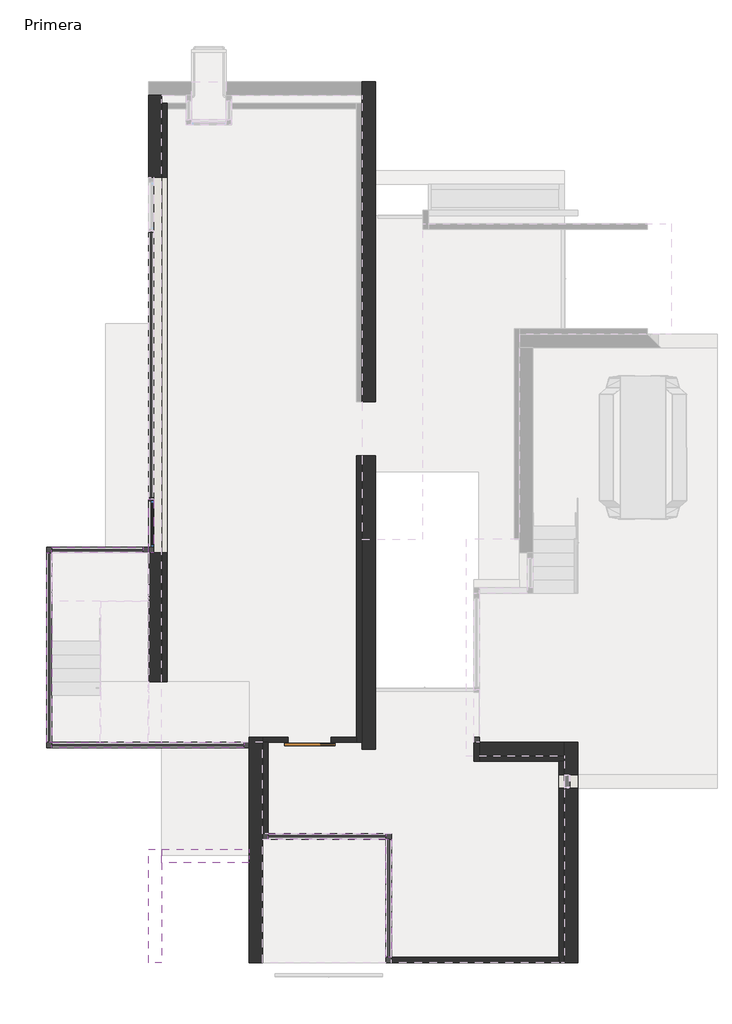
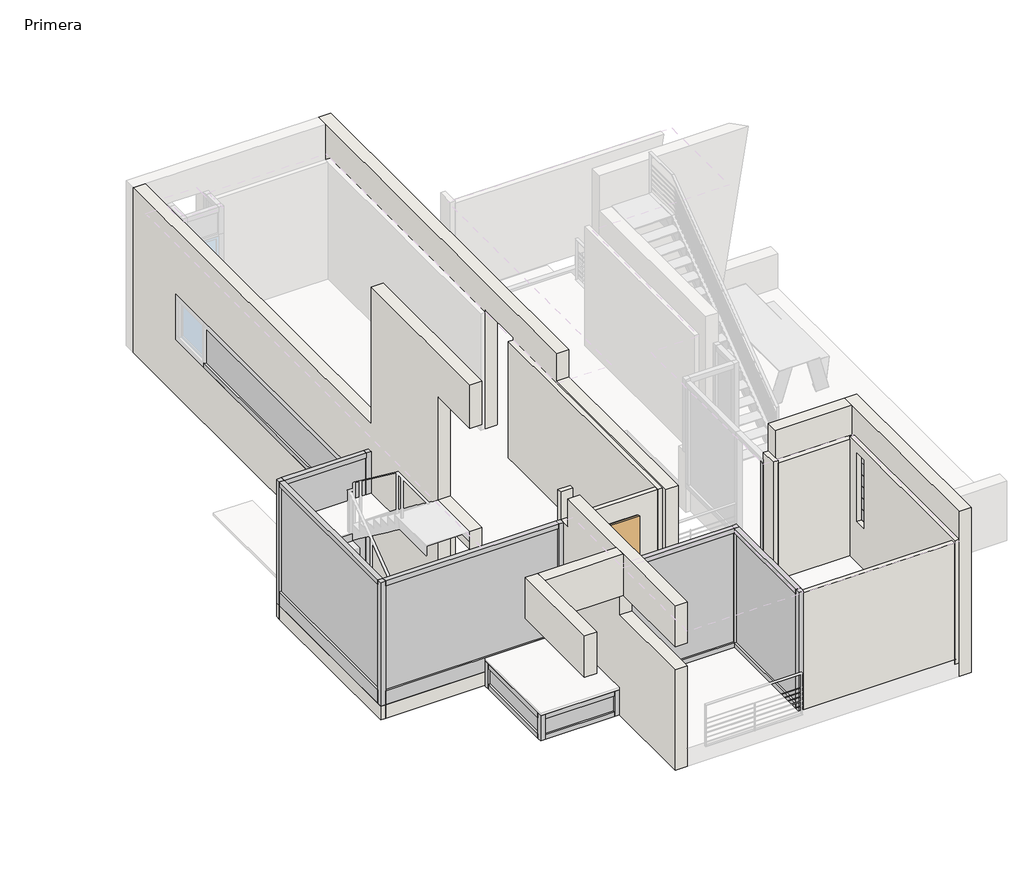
# One storey, part 1 of 3: 30 members, 18 walls, 13 plates, 1 door, 1 window.
"""IFC4 building model written with IfcOpenShell, lengths in millimetres."""

from ifc_helpers import new_model, si_unit, frame, origin, place, context, project, spatial, polyline, outline, extrude, faceted_brep, transform, mapped, element, save
from components import outline_outline_80x210_fbc687eb, member_df5dc72e, member_9c0560e9, member_dd67d066, montante_rectangular_montante_rectangular_10_x_10_cm_1e96bd36, montante_rectangular_montante_rectangular_10_x_10_cm_0e383af4, montante_rectangular_montante_rectangular_10_x_10_cm_002f6bcf, montante_rectangular_montante_rectangular_10_x_10_cm_38f8c7a2, montante_rectangular_montante_rectangular_10_x_10_cm_1e5e4e1f, montante_rectangular_montante_rectangular_10_x_10_cm_9496b26a, montante_rectangular_montante_rectangular_10_x_10_cm_7be1e4ba, montante_rectangular_montante_rectangular_10_x_10_cm_09eb8a59, montante_rectangular_montante_rectangular_10_x_10_cm_4af74fe2, montante_rectangular_montante_rectangular_10_x_10_cm_d48a71bb, montante_rectangular_montante_rectangular_10_x_10_cm_da1454aa, montante_rectangular_montante_rectangular_10_x_10_cm_511e5c9e, montante_rectangular_montante_rectangular_10_x_10_cm_65ef7380, montante_rectangular_montante_rectangular_10_x_10_cm_65987443, montante_rectangular_montante_rectangular_10_x_10_cm_3b1728c8, montante_rectangular_montante_rectangular_10_x_10_cm_939e88b2, montante_rectangular_montante_rectangular_10_x_10_cm_6973254e, montante_rectangular_montante_rectangular_10_x_10_cm_d4c933a5, montante_rectangular_montante_rectangular_10_x_10_cm_d74e2c2d, montante_rectangular_montante_rectangular_30_x_10_cm_c309958c, montante_rectangular_montante_rectangular_30_x_10_cm_6eee1d13, montante_rectangular_montante_rectangular_30_x_10_cm_e8f464a9, montante_rectangular_montante_rectangular_5_x_10_cm_4604db76, panel_de_sistema_f0514aad, panel_de_sistema_5076b700, panel_de_sistema_acristalado_2634ce95, panel_de_sistema_acristalado_f66ec8ae, panel_de_sistema_acristalado_83c3b375, panel_de_sistema_acristalado_f33c19d0, panel_de_sistema_acristalado_935807de, panel_de_sistema_acristalado_85549cb2, panel_de_sistema_acristalado_fc70a705, ventana_de_muro_cortina_ventana_de_muro_cortina_e1bbbce5

model = new_model("IFC4")

# Units and contexts
model_context = context("Model", 3, world=origin())
ifc_project = project(units=[si_unit("LENGTHUNIT", "METRE", prefix="MILLI")], contexts=[model_context])

# Site, building, storey
site = spatial("IfcSite", under=ifc_project)
building = spatial("IfcBuilding", under=site)
storey = spatial("IfcBuildingStorey", under=building, Name="Primera", Elevation=3000.0)

# Door
placement = place(None, origin())
outline_outline_80x210_shape = outline_outline_80x210_fbc687eb(model_context)
element("IfcDoor", 1, ObjectType="Outline : Outline - 80x210", at=placement, inside=storey, context=model_context, shape_type="MappedRepresentation", body=[
    mapped(outline_outline_80x210_shape, transform((-1231.9305645, -7992.6669037, 3100.0), x_axis=(1.0, 0.0, 0.0), y_axis=(0.0, 1.0, 0.0), z_axis=(0.0, 0.0, 1.0))),
])

# Members
member_shape = member_df5dc72e(model_context)
element("IfcMember", 2, ObjectType="Montante angular cuadrilátero : Montante cuadrilátero 1", at=placement, inside=storey, context=model_context, shape_type="MappedRepresentation", body=[
    mapped(member_shape, transform((-6081.0601801, -4462.6669037, 3000.0), x_axis=(0.0, 1.0, 0.0), y_axis=(1.0, 0.0, 0.0), z_axis=(0.0, 0.0, -1.0))),
])
element("IfcMember", 3, ObjectType="Montante angular cuadrilátero : Montante cuadrilátero 1", at=placement, inside=storey, context=model_context, shape_type="MappedRepresentation", body=[
    mapped(member_shape, transform((-6081.0601801, -8092.6669037, 5700.0), x_axis=(0.0, -1.0, 0.0), y_axis=(1.0, 0.0, 0.0), z_axis=(0.0, 0.0, 1.0))),
])
member_2_shape = member_9c0560e9(model_context)
element("IfcMember", 4, ObjectType="Montante angular cuadrilátero : Montante cuadrilátero 1", at=placement, inside=storey, context=model_context, shape_type="MappedRepresentation", body=[
    mapped(member_2_shape, transform((-3931.0601801, -10092.6669037, 2700.0), x_axis=(0.0, -1.0, 0.0), y_axis=(-1.0, 0.0, 0.0), z_axis=(0.0, 0.0, -1.0))),
])
member_3_shape = member_dd67d066(model_context)
element("IfcMember", 5, ObjectType="Montante angular cuadrilátero : Montante cuadrilátero 1", at=placement, inside=storey, context=model_context, shape_type="MappedRepresentation", body=[
    mapped(member_3_shape, transform((246.8974058, -9792.6669037, 3100.0), x_axis=(0.0, 1.0, 0.0), y_axis=(1.0, 0.0, 0.0), z_axis=(0.0, 0.0, -1.0))),
])
montante_rectangular_montante_rectangular_10_x_10_cm_shape = montante_rectangular_montante_rectangular_10_x_10_cm_1e96bd36(model_context)
element("IfcMember", 6, ObjectType="Montante rectangular : Montante rectangular - 10 x 10 cm", at=placement, inside=storey, context=model_context, shape_type="MappedRepresentation", body=[
    mapped(montante_rectangular_montante_rectangular_10_x_10_cm_shape, transform((-6031.0601801, -8092.6669037, 5700.0), x_axis=(0.0, 0.0, 1.0), y_axis=(0.0, 1.0, 0.0), z_axis=(-1.0, 0.0, 0.0))),
])
montante_rectangular_montante_rectangular_10_x_10_cm_2_shape = montante_rectangular_montante_rectangular_10_x_10_cm_0e383af4(model_context)
element("IfcMember", 7, ObjectType="Montante rectangular : Montante rectangular - 10 x 10 cm", at=placement, inside=storey, context=model_context, shape_type="MappedRepresentation", body=[
    mapped(montante_rectangular_montante_rectangular_10_x_10_cm_2_shape, transform((-2353.1025942, -8092.6669037, 5700.0), x_axis=(1.0, 0.0, 0.0), y_axis=(0.0, 1.0, 0.0), z_axis=(0.0, 0.0, 1.0))),
])
montante_rectangular_montante_rectangular_10_x_10_cm_3_shape = montante_rectangular_montante_rectangular_10_x_10_cm_002f6bcf(model_context)
element("IfcMember", 8, ObjectType="Montante rectangular : Montante rectangular - 10 x 10 cm", at=placement, inside=storey, context=model_context, shape_type="MappedRepresentation", body=[
    mapped(montante_rectangular_montante_rectangular_10_x_10_cm_3_shape, transform((-6081.0601801, -4512.6669037, 5700.0), x_axis=(0.0, 0.0, 1.0), y_axis=(1.0, 0.0, 0.0), z_axis=(0.0, 1.0, 0.0))),
])
montante_rectangular_montante_rectangular_10_x_10_cm_4_shape = montante_rectangular_montante_rectangular_10_x_10_cm_38f8c7a2(model_context)
element("IfcMember", 9, ObjectType="Montante rectangular : Montante rectangular - 10 x 10 cm", at=placement, inside=storey, context=model_context, shape_type="MappedRepresentation", body=[
    mapped(montante_rectangular_montante_rectangular_10_x_10_cm_4_shape, transform((-4331.0601801, -4462.6669037, 5700.0), x_axis=(0.0, 0.0, 1.0), y_axis=(0.0, -1.0, 0.0), z_axis=(1.0, 0.0, 0.0))),
])
montante_rectangular_montante_rectangular_10_x_10_cm_5_shape = montante_rectangular_montante_rectangular_10_x_10_cm_1e5e4e1f(model_context)
element("IfcMember", 10, ObjectType="Montante rectangular : Montante rectangular - 10 x 10 cm", at=placement, inside=storey, context=model_context, shape_type="MappedRepresentation", body=[
    mapped(montante_rectangular_montante_rectangular_10_x_10_cm_5_shape, transform((-4231.0601801, -4462.6669037, 3000.0), x_axis=(1.0, 0.0, 0.0), y_axis=(0.0, -1.0, 0.0), z_axis=(0.0, 0.0, -1.0))),
])
montante_rectangular_montante_rectangular_10_x_10_cm_6_shape = montante_rectangular_montante_rectangular_10_x_10_cm_9496b26a(model_context)
element("IfcMember", 11, ObjectType="Montante rectangular : Montante rectangular - 10 x 10 cm", at=placement, inside=storey, context=model_context, shape_type="MappedRepresentation", body=[
    mapped(montante_rectangular_montante_rectangular_10_x_10_cm_6_shape, transform((-3931.0601801, -10042.6669037, 3250.0), x_axis=(0.0, 0.0, 1.0), y_axis=(-1.0, 0.0, 0.0), z_axis=(0.0, -1.0, 0.0))),
])
montante_rectangular_montante_rectangular_10_x_10_cm_7_shape = montante_rectangular_montante_rectangular_10_x_10_cm_7be1e4ba(model_context)
element("IfcMember", 12, ObjectType="Montante rectangular : Montante rectangular - 10 x 10 cm", at=placement, inside=storey, context=model_context, shape_type="MappedRepresentation", body=[
    mapped(montante_rectangular_montante_rectangular_10_x_10_cm_7_shape, transform((-3931.0601801, -8267.6669037, 2700.0), x_axis=(0.0, 0.0, -1.0), y_axis=(-1.0, 0.0, 0.0), z_axis=(0.0, 1.0, 0.0))),
])
montante_rectangular_montante_rectangular_10_x_10_cm_8_shape = montante_rectangular_montante_rectangular_10_x_10_cm_09eb8a59(model_context)
element("IfcMember", 13, ObjectType="Montante rectangular : Montante rectangular - 10 x 10 cm", at=placement, inside=storey, context=model_context, shape_type="MappedRepresentation", body=[
    mapped(montante_rectangular_montante_rectangular_10_x_10_cm_8_shape, transform((-3931.0601801, -8167.6669037, 3250.0), x_axis=(0.0, 1.0, 0.0), y_axis=(-1.0, 0.0, 0.0), z_axis=(0.0, 0.0, 1.0))),
])
montante_rectangular_montante_rectangular_10_x_10_cm_9_shape = montante_rectangular_montante_rectangular_10_x_10_cm_4af74fe2(model_context)
element("IfcMember", 14, ObjectType="Montante rectangular : Montante rectangular - 10 x 10 cm", at=placement, inside=storey, context=model_context, shape_type="MappedRepresentation", body=[
    mapped(montante_rectangular_montante_rectangular_10_x_10_cm_9_shape, transform((-2453.1025942, -10092.6669037, 3250.0), x_axis=(0.0, 0.0, 1.0), y_axis=(0.0, -1.0, 0.0), z_axis=(1.0, 0.0, 0.0))),
])
montante_rectangular_montante_rectangular_10_x_10_cm_10_shape = montante_rectangular_montante_rectangular_10_x_10_cm_d48a71bb(model_context)
element("IfcMember", 15, ObjectType="Montante rectangular : Montante rectangular - 10 x 10 cm", at=placement, inside=storey, context=model_context, shape_type="MappedRepresentation", body=[
    mapped(montante_rectangular_montante_rectangular_10_x_10_cm_10_shape, transform((-3881.0601801, -10092.6669037, 2700.0), x_axis=(0.0, 0.0, -1.0), y_axis=(0.0, -1.0, 0.0), z_axis=(-1.0, 0.0, 0.0))),
])
montante_rectangular_montante_rectangular_10_x_10_cm_11_shape = montante_rectangular_montante_rectangular_10_x_10_cm_da1454aa(model_context)
element("IfcMember", 16, ObjectType="Montante rectangular : Montante rectangular - 10 x 10 cm", at=placement, inside=storey, context=model_context, shape_type="MappedRepresentation", body=[
    mapped(montante_rectangular_montante_rectangular_10_x_10_cm_11_shape, transform((-2353.1025942, -10092.6669037, 2700.0), x_axis=(1.0, 0.0, 0.0), y_axis=(0.0, -1.0, 0.0), z_axis=(0.0, 0.0, -1.0))),
])
montante_rectangular_montante_rectangular_10_x_10_cm_12_shape = montante_rectangular_montante_rectangular_10_x_10_cm_511e5c9e(model_context)
element("IfcMember", 17, ObjectType="Montante rectangular : Montante rectangular - 10 x 10 cm", at=placement, inside=storey, context=model_context, shape_type="MappedRepresentation", body=[
    mapped(montante_rectangular_montante_rectangular_10_x_10_cm_12_shape, transform((-2103.1025942, -9792.6669037, 5700.0), x_axis=(-1.0, 0.0, 0.0), y_axis=(0.0, -1.0, 0.0), z_axis=(0.0, 0.0, 1.0))),
])
element("IfcMember", 18, ObjectType="Montante rectangular : Montante rectangular - 10 x 10 cm", at=placement, inside=storey, context=model_context, shape_type="MappedRepresentation", body=[
    mapped(montante_rectangular_montante_rectangular_10_x_10_cm_12_shape, transform((246.8974058, -12142.6669037, 5700.0), x_axis=(0.0, -1.0, 0.0), y_axis=(1.0, 0.0, 0.0), z_axis=(0.0, 0.0, 1.0))),
])
montante_rectangular_montante_rectangular_10_x_10_cm_13_shape = montante_rectangular_montante_rectangular_10_x_10_cm_65ef7380(model_context)
element("IfcMember", 19, ObjectType="Montante rectangular : Montante rectangular - 10 x 10 cm", at=placement, inside=storey, context=model_context, shape_type="MappedRepresentation", body=[
    mapped(montante_rectangular_montante_rectangular_10_x_10_cm_13_shape, transform((196.8974058, -9792.6669037, 5700.0), x_axis=(0.0, 0.0, 1.0), y_axis=(0.0, -1.0, 0.0), z_axis=(1.0, 0.0, 0.0))),
])
element("IfcMember", 20, ObjectType="Montante rectangular : Montante rectangular - 10 x 10 cm", at=placement, inside=storey, context=model_context, shape_type="MappedRepresentation", body=[
    mapped(montante_rectangular_montante_rectangular_10_x_10_cm_13_shape, transform((246.8974058, -9842.6669037, 5700.0), x_axis=(0.0, 0.0, 1.0), y_axis=(1.0, 0.0, 0.0), z_axis=(0.0, 1.0, 0.0))),
])
montante_rectangular_montante_rectangular_10_x_10_cm_14_shape = montante_rectangular_montante_rectangular_10_x_10_cm_65987443(model_context)
element("IfcMember", 21, ObjectType="Montante rectangular : Montante rectangular - 10 x 10 cm", at=placement, inside=storey, context=model_context, shape_type="MappedRepresentation", body=[
    mapped(montante_rectangular_montante_rectangular_10_x_10_cm_14_shape, transform((-2003.1025942, -9792.6669037, 3100.0), x_axis=(0.0, 0.0, -1.0), y_axis=(0.0, -1.0, 0.0), z_axis=(-1.0, 0.0, 0.0))),
])
element("IfcMember", 22, ObjectType="Montante rectangular : Montante rectangular - 10 x 10 cm", at=placement, inside=storey, context=model_context, shape_type="MappedRepresentation", body=[
    mapped(montante_rectangular_montante_rectangular_10_x_10_cm_14_shape, transform((246.8974058, -12042.6669037, 3100.0), x_axis=(0.0, 0.0, -1.0), y_axis=(1.0, 0.0, 0.0), z_axis=(0.0, -1.0, 0.0))),
])
montante_rectangular_montante_rectangular_10_x_10_cm_15_shape = montante_rectangular_montante_rectangular_10_x_10_cm_3b1728c8(model_context)
element("IfcMember", 23, ObjectType="Montante rectangular : Montante rectangular - 10 x 10 cm", at=placement, inside=storey, context=model_context, shape_type="MappedRepresentation", body=[
    mapped(montante_rectangular_montante_rectangular_10_x_10_cm_15_shape, transform((-4181.0601801, -4512.6669037, 3900.0), x_axis=(0.0, 0.0, -1.0), y_axis=(1.0, 0.0, 0.0), z_axis=(0.0, -1.0, 0.0))),
])
montante_rectangular_montante_rectangular_10_x_10_cm_16_shape = montante_rectangular_montante_rectangular_10_x_10_cm_939e88b2(model_context)
element("IfcMember", 24, ObjectType="Montante rectangular : Montante rectangular - 10 x 10 cm", at=placement, inside=storey, context=model_context, shape_type="MappedRepresentation", body=[
    mapped(montante_rectangular_montante_rectangular_10_x_10_cm_16_shape, transform((-4181.0601801, -3512.6669037, 4900.0), x_axis=(0.0, 0.0, 1.0), y_axis=(1.0, 0.0, 0.0), z_axis=(0.0, 1.0, 0.0))),
])
montante_rectangular_montante_rectangular_10_x_10_cm_17_shape = montante_rectangular_montante_rectangular_10_x_10_cm_6973254e(model_context)
element("IfcMember", 25, ObjectType="Montante rectangular : Montante rectangular - 10 x 10 cm", at=placement, inside=storey, context=model_context, shape_type="MappedRepresentation", body=[
    mapped(montante_rectangular_montante_rectangular_10_x_10_cm_17_shape, transform((-4181.0601801, -4512.6669037, 4800.0), x_axis=(0.0, -1.0, 0.0), y_axis=(1.0, 0.0, 0.0), z_axis=(0.0, 0.0, 1.0))),
])
montante_rectangular_montante_rectangular_10_x_10_cm_18_shape = montante_rectangular_montante_rectangular_10_x_10_cm_d4c933a5(model_context)
element("IfcMember", 26, ObjectType="Montante rectangular : Montante rectangular - 10 x 10 cm", at=placement, inside=storey, context=model_context, shape_type="MappedRepresentation", body=[
    mapped(montante_rectangular_montante_rectangular_10_x_10_cm_18_shape, transform((-4181.0601801, -3512.6669037, 3900.0), x_axis=(0.0, 0.0, -1.0), y_axis=(1.0, 0.0, 0.0), z_axis=(0.0, -1.0, 0.0))),
])
montante_rectangular_montante_rectangular_10_x_10_cm_19_shape = montante_rectangular_montante_rectangular_10_x_10_cm_d74e2c2d(model_context)
element("IfcMember", 27, ObjectType="Montante rectangular : Montante rectangular - 10 x 10 cm", at=placement, inside=storey, context=model_context, shape_type="MappedRepresentation", body=[
    mapped(montante_rectangular_montante_rectangular_10_x_10_cm_19_shape, transform((1883.6012558, -8042.6669037, 5450.0), x_axis=(0.0, -1.0, 0.0), y_axis=(1.0, 0.0, 0.0), z_axis=(0.0, 0.0, 1.0))),
])
montante_rectangular_montante_rectangular_30_x_10_cm_shape = montante_rectangular_montante_rectangular_30_x_10_cm_c309958c(model_context)
element("IfcMember", 28, ObjectType="Montante rectangular : Montante rectangular - 30 x 10 cm", at=placement, inside=storey, context=model_context, shape_type="MappedRepresentation", body=[
    mapped(montante_rectangular_montante_rectangular_30_x_10_cm_shape, transform((-6081.0601801, -8042.6669037, 3000.0), x_axis=(0.0, 0.0, -1.0), y_axis=(1.0, 0.0, 0.0), z_axis=(0.0, -1.0, 0.0))),
])
montante_rectangular_montante_rectangular_30_x_10_cm_2_shape = montante_rectangular_montante_rectangular_30_x_10_cm_6eee1d13(model_context)
element("IfcMember", 29, ObjectType="Montante rectangular : Montante rectangular - 30 x 10 cm", at=placement, inside=storey, context=model_context, shape_type="MappedRepresentation", body=[
    mapped(montante_rectangular_montante_rectangular_30_x_10_cm_2_shape, transform((-2453.1025942, -8092.6669037, 3000.0), x_axis=(0.0, 0.0, -1.0), y_axis=(0.0, 1.0, 0.0), z_axis=(1.0, 0.0, 0.0))),
])
montante_rectangular_montante_rectangular_30_x_10_cm_3_shape = montante_rectangular_montante_rectangular_30_x_10_cm_e8f464a9(model_context)
element("IfcMember", 30, ObjectType="Montante rectangular : Montante rectangular - 30 x 10 cm", at=placement, inside=storey, context=model_context, shape_type="MappedRepresentation", body=[
    mapped(montante_rectangular_montante_rectangular_30_x_10_cm_3_shape, transform((-6031.0601801, -4462.6669037, 3000.0), x_axis=(0.0, 0.0, -1.0), y_axis=(0.0, -1.0, 0.0), z_axis=(-1.0, 0.0, 0.0))),
])
montante_rectangular_montante_rectangular_5_x_10_cm_shape = montante_rectangular_montante_rectangular_5_x_10_cm_4604db76(model_context)
element("IfcMember", 31, ObjectType="Montante rectangular : Montante rectangular - 5 x 10 cm", at=placement, inside=storey, context=model_context, shape_type="MappedRepresentation", body=[
    mapped(montante_rectangular_montante_rectangular_5_x_10_cm_shape, transform((-4181.0601801, -3512.6669037, 4000.0), x_axis=(0.0, 1.0, 0.0), y_axis=(1.0, 0.0, 0.0), z_axis=(0.0, 0.0, -1.0))),
])

# Plates
panel_de_sistema_shape = panel_de_sistema_f0514aad(model_context)
element("IfcPlate", 32, ObjectType="Panel de sistema : PAVES", at=placement, inside=storey, context=model_context, shape_type="MappedRepresentation", body=[
    mapped(panel_de_sistema_shape, transform((3568.9398199, -8767.6669037, 4010.0), x_axis=(0.0, 1.0, 0.0), y_axis=(-1.0, 0.0, 0.0), z_axis=(0.0, 0.0, 1.0))),
])
panel_de_sistema_2_shape = panel_de_sistema_5076b700(model_context)
element("IfcPlate", 33, ObjectType="Panel de sistema : PAVES", at=placement, inside=storey, context=model_context, shape_type="MappedRepresentation", body=[
    mapped(panel_de_sistema_2_shape, transform((3568.9398199, -8767.6669037, 4255.0), x_axis=(0.0, 1.0, 0.0), y_axis=(-1.0, 0.0, 0.0), z_axis=(0.0, 0.0, 1.0))),
])
element("IfcPlate", 34, ObjectType="Panel de sistema : PAVES", at=placement, inside=storey, context=model_context, shape_type="MappedRepresentation", body=[
    mapped(panel_de_sistema_2_shape, transform((3568.9398199, -8767.6669037, 4505.0), x_axis=(0.0, 1.0, 0.0), y_axis=(-1.0, 0.0, 0.0), z_axis=(0.0, 0.0, 1.0))),
])
element("IfcPlate", 35, ObjectType="Panel de sistema : PAVES", at=placement, inside=storey, context=model_context, shape_type="MappedRepresentation", body=[
    mapped(panel_de_sistema_2_shape, transform((3568.9398199, -8767.6669037, 4755.0), x_axis=(0.0, 1.0, 0.0), y_axis=(-1.0, 0.0, 0.0), z_axis=(0.0, 0.0, 1.0))),
])
element("IfcPlate", 36, ObjectType="Panel de sistema : PAVES", at=placement, inside=storey, context=model_context, shape_type="MappedRepresentation", body=[
    mapped(panel_de_sistema_2_shape, transform((3568.9398199, -8767.6669037, 5005.0), x_axis=(0.0, 1.0, 0.0), y_axis=(-1.0, 0.0, 0.0), z_axis=(0.0, 0.0, 1.0))),
])
panel_de_sistema_acristalado_shape = panel_de_sistema_acristalado_2634ce95(model_context)
element("IfcPlate", 37, ObjectType="Panel de sistema : Acristalado", at=placement, inside=storey, context=model_context, shape_type="MappedRepresentation", body=[
    mapped(panel_de_sistema_acristalado_shape, transform((-4242.0813871, -8092.6669037, 3300.0), x_axis=(-1.0, 0.0, 0.0), y_axis=(0.0, -1.0, 0.0), z_axis=(0.0, 0.0, 1.0))),
])
panel_de_sistema_acristalado_2_shape = panel_de_sistema_acristalado_f66ec8ae(model_context)
element("IfcPlate", 38, ObjectType="Panel de sistema : Acristalado", at=placement, inside=storey, context=model_context, shape_type="MappedRepresentation", body=[
    mapped(panel_de_sistema_acristalado_2_shape, transform((-6081.0601801, -6277.6669037, 3300.0), x_axis=(0.0, 1.0, 0.0), y_axis=(-1.0, 0.0, 0.0), z_axis=(0.0, 0.0, 1.0))),
])
panel_de_sistema_acristalado_3_shape = panel_de_sistema_acristalado_83c3b375(model_context)
element("IfcPlate", 39, ObjectType="Panel de sistema : Acristalado", at=placement, inside=storey, context=model_context, shape_type="MappedRepresentation", body=[
    mapped(panel_de_sistema_acristalado_3_shape, transform((-5181.0601801, -4462.6669037, 3300.0), x_axis=(1.0, 0.0, 0.0), y_axis=(0.0, 1.0, 0.0), z_axis=(0.0, 0.0, 1.0))),
])
panel_de_sistema_acristalado_4_shape = panel_de_sistema_acristalado_f33c19d0(model_context)
element("IfcPlate", 40, ObjectType="Panel de sistema : Acristalado", at=placement, inside=storey, context=model_context, shape_type="MappedRepresentation", body=[
    mapped(panel_de_sistema_acristalado_4_shape, transform((-3931.0601801, -9155.1669037, 2800.0), x_axis=(0.0, -1.0, 0.0), y_axis=(1.0, 0.0, 0.0), z_axis=(0.0, 0.0, 1.0))),
])
panel_de_sistema_acristalado_5_shape = panel_de_sistema_acristalado_935807de(model_context)
element("IfcPlate", 41, ObjectType="Panel de sistema : Acristalado", at=placement, inside=storey, context=model_context, shape_type="MappedRepresentation", body=[
    mapped(panel_de_sistema_acristalado_5_shape, transform((-3167.0813871, -10092.6669037, 2800.0), x_axis=(1.0, 0.0, 0.0), y_axis=(0.0, 1.0, 0.0), z_axis=(0.0, 0.0, 1.0))),
])
panel_de_sistema_acristalado_6_shape = panel_de_sistema_acristalado_85549cb2(model_context)
element("IfcPlate", 42, ObjectType="Panel de sistema : Acristalado", at=placement, inside=storey, context=model_context, shape_type="MappedRepresentation", body=[
    mapped(panel_de_sistema_acristalado_6_shape, transform((-903.1025942, -9792.6669037, 3200.0), x_axis=(1.0, 0.0, 0.0), y_axis=(0.0, 1.0, 0.0), z_axis=(0.0, 0.0, 1.0))),
])
element("IfcPlate", 43, ObjectType="Panel de sistema : Acristalado", at=placement, inside=storey, context=model_context, shape_type="MappedRepresentation", body=[
    mapped(panel_de_sistema_acristalado_6_shape, transform((246.8974058, -10942.6669037, 3200.0), x_axis=(0.0, 1.0, 0.0), y_axis=(-1.0, 0.0, 0.0), z_axis=(0.0, 0.0, 1.0))),
])
panel_de_sistema_acristalado_7_shape = panel_de_sistema_acristalado_fc70a705(model_context)
element("IfcPlate", 44, ObjectType="Panel de sistema : Acristalado", at=placement, inside=storey, context=model_context, shape_type="MappedRepresentation", body=[
    mapped(panel_de_sistema_acristalado_7_shape, transform((-4181.0601801, -1012.6669037, 4000.0), x_axis=(0.0, 1.0, 0.0), y_axis=(-1.0, 0.0, 0.0), z_axis=(0.0, 0.0, 1.0))),
])

# Walls
element("IfcWall", 45, ObjectType="Hormigón - 25 cm", at=placement, inside=storey, context=model_context, shape_type="Brep", body=[
    faceted_brep([(-0.8601801, 4261.8960075, 6300.0), (-0.8601801, -4262.6669037, 6300.0), (-0.8601801, -4262.6669037, 5700.0), (-0.8601801, -8167.6669037, 5700.0), (-0.8601801, -8167.6669037, 3100.0), (-0.8601801, -7042.6669037, 3100.0), (-0.8601801, -7042.6669037, 2700.0), (-0.8601801, -8167.6669037, 2700.0), (-0.8601801, -8167.6669037, 100.0), (-0.8601801, -6738.9241022, 100.0), (-0.8601801, -6738.9241022, 2500.0), (-0.8601801, -5082.2421985, 2500.0), (-0.8601801, -3475.0993414, 100.0), (-0.8601801, -2702.6669037, 100.0), (-0.8601801, -2702.6669037, 2700.0), (-0.8601801, -3002.6669037, 2700.0), (-0.8601801, -3002.6669037, 3100.0), (-0.8601801, -2702.6669037, 3100.0), (-0.8601801, -2702.6669037, 5700.0), (-0.8601801, -1702.6669037, 5700.0), (-0.8601801, -1702.6669037, 3100.0), (-0.8601801, 1769.072658, 3100.0), (-0.8601801, 1769.072658, 2700.0), (-0.8601801, 2357.3330963, 2700.0), (-0.8601801, 2607.3330963, 2700.0), (-0.8601801, 4261.8960075, 2700.0), (-250.8601801, -4262.6669037, 6300.0), (-250.8601801, 4011.8960075, 6300.0), (-250.8601801, 4261.8960075, 6300.0), (-250.8601801, 4261.8960075, 2700.0), (-250.8601801, 4011.8960075, 2700.0), (-250.8601801, 2607.3330963, 2700.0), (-250.8601801, 2357.3330963, 2700.0), (-250.8601801, 1769.072658, 2700.0), (-250.8601801, 1769.072658, 3100.0), (-250.8601801, -1702.6669037, 3100.0), (-250.8601801, -1702.6669037, 5700.0), (-250.8601801, -2702.6669037, 5700.0), (-250.8601801, -2702.6669037, 3100.0), (-250.8601801, -8167.6669037, 3100.0), (-250.8601801, -8167.6669037, 5700.0), (-250.8601801, -4262.6669037, 5700.0), (-250.8601801, -8167.6669037, 2700.0), (-250.8601801, -2702.6669037, 2700.0), (-250.8601801, -2702.6669037, 100.0), (-250.8601801, -3475.0993414, 100.0), (-250.8601801, -5082.2421985, 2500.0), (-250.8601801, -6738.9241022, 2500.0), (-250.8601801, -6738.9241022, 100.0), (-250.8601801, -8167.6669037, 100.0), (-240.8601801, -7042.6669037, 2700.0), (-240.8601801, -3002.6669037, 2700.0), (-240.8601801, -3002.6669037, 3100.0), (-240.8601801, -7042.6669037, 3100.0)], [[[0, 1, 2, 3, 4, 5, 6, 7, 8, 9, 10, 11, 12, 13, 14, 15, 16, 17, 18, 19, 20, 21, 22, 23, 24, 25]], [[26, 27, 28, 29, 30, 31, 32, 33, 34, 35, 36, 37, 38, 39, 40, 41]], [[42, 43, 44, 45, 46, 47, 48, 49]], [[0, 25, 29, 28]], [[50, 51, 15, 14, 43, 42, 7, 6]], [[34, 21, 20, 35]], [[52, 53, 5, 4, 39, 38, 17, 16]], [[21, 34, 33, 22]], [[51, 52, 16, 15]], [[51, 50, 53, 52]], [[1, 0, 28, 27, 26]], [[3, 40, 39, 4]], [[7, 42, 49, 8]], [[37, 18, 17, 38]], [[43, 14, 13, 44]], [[19, 18, 37, 36]], [[19, 36, 35, 20]], [[53, 50, 6, 5]], [[29, 25, 24, 23, 22, 33, 32, 31, 30]], [[3, 2, 41, 40]], [[2, 1, 26, 41]], [[9, 8, 49, 48]], [[13, 12, 45, 44]], [[47, 10, 9, 48]], [[11, 10, 47, 46]], [[11, 46, 45, 12]]]),
])
element("IfcWall", 46, ObjectType="Hormigón - 25 cm", at=placement, inside=storey, context=model_context, shape_type="Brep", body=[
    faceted_brep([(-4231.0601801, -4512.6669037, 6300.0), (-4231.0601801, -4262.6669037, 6300.0), (-4231.0601801, 4011.8960075, 6300.0), (-4231.0601801, 4011.8960075, 2700.0), (-4231.0601801, 2607.3330963, 2700.0), (-4231.0601801, -4412.6669037, 2700.0), (-4231.0601801, -4512.6669037, 2700.0), (-4231.0601801, -4512.6669037, 3000.0), (-4231.0601801, -4512.6669037, 3100.0), (-4231.0601801, -6912.6669037, 3100.0), (-4231.0601801, -6912.6669037, 5700.0), (-4231.0601801, -8042.6669037, 5700.0), (-4231.0601801, -8042.6669037, 6100.0), (-4231.0601801, -6912.6669037, 6100.0), (-4231.0601801, -6912.6669037, 8350.0), (-4231.0601801, -8042.6669037, 8350.0), (-4231.0601801, -8042.6669037, 9300.0), (-4231.0601801, -4512.6669037, 9300.0), (-4231.0601801, -4512.6669037, 4900.0), (-4231.0601801, -4512.6669037, 3900.0), (-4231.0601801, 2487.3330963, 3900.0), (-4231.0601801, 2487.3330963, 4900.0), (-3981.0601801, 4011.8960075, 6300.0), (-3981.0601801, -4262.6669037, 6300.0), (-3981.0601801, -4512.6669037, 6300.0), (-3981.0601801, -4512.6669037, 8500.0), (-3981.0601801, -4512.6669037, 9300.0), (-3981.0601801, -8042.6669037, 9300.0), (-3981.0601801, -8042.6669037, 8350.0), (-3981.0601801, -6912.6669037, 8350.0), (-3981.0601801, -6912.6669037, 6100.0), (-3981.0601801, -8042.6669037, 6100.0), (-3981.0601801, -8042.6669037, 5700.0), (-3981.0601801, -6912.6669037, 5700.0), (-3981.0601801, -6912.6669037, 5650.0), (-3981.0601801, -6912.6669037, 3100.0), (-3981.0601801, -4512.6669037, 3100.0), (-3981.0601801, -4512.6669037, 2700.0), (-3981.0601801, 2357.3330963, 2700.0), (-3981.0601801, 4011.8960075, 2700.0), (-3981.0601801, 4011.8960075, 3100.0), (-3981.0601801, -4512.6669037, 3900.0), (-3981.0601801, -4512.6669037, 4900.0), (-3981.0601801, 2487.3330963, 4900.0), (-3981.0601801, 2487.3330963, 3900.0)], [[[0, 1, 2, 3, 4, 5, 6, 7, 8, 9, 10, 11, 12, 13, 14, 15, 16, 17], [18, 19, 20, 21]], [[22, 23, 24, 25, 26, 27, 28, 29, 30, 31, 32, 33, 34, 35, 36, 37, 38, 39, 40], [41, 42, 43, 44]], [[2, 1, 0, 24, 23, 22]], [[3, 39, 38, 37, 6, 5, 4]], [[33, 10, 9, 35, 34]], [[3, 2, 22, 40, 39]], [[8, 36, 35, 9]], [[11, 10, 33, 32]], [[17, 16, 27, 26]], [[0, 17, 26, 25, 24]], [[36, 8, 7, 6, 37]], [[41, 19, 18, 42]], [[42, 18, 21, 43]], [[43, 21, 20, 44]], [[19, 41, 44, 20]], [[13, 12, 31, 30]], [[14, 13, 30, 29]], [[15, 14, 29, 28]], [[12, 11, 32, 31]], [[16, 15, 28, 27]]]),
])
element("IfcWall", 47, ObjectType="Hormigón - 25 cm", at=placement, inside=storey, context=model_context, shape_type="Brep", body=[
    faceted_brep([(-4231.0601801, -10032.6669037, 5396.2), (-4231.0601801, -12142.6669037, 5396.2), (-4231.0601801, -12142.6669037, 6300.0), (-4231.0601801, -10032.6669037, 6300.0), (-3981.0601801, -10032.6669037, 5396.2), (-3981.0601801, -10032.6669037, 6300.0), (-3981.0601801, -10282.6669037, 6300.0), (-3981.0601801, -12142.6669037, 6300.0), (-3981.0601801, -12142.6669037, 5396.2), (-3981.0601801, -10282.6669037, 5396.2)], [[[0, 1, 2, 3]], [[4, 5, 6, 7, 8, 9]], [[1, 0, 4, 9, 8]], [[3, 2, 7, 6, 5]], [[2, 1, 8, 7]], [[0, 3, 5, 4]]]),
])
element("IfcWall", 48, ObjectType="Hormigón - 25 cm", at=placement, inside=storey, context=model_context, shape_type="Brep", body=[
    faceted_brep([(-2353.1025942, -10032.6669037, 5396.2), (-3981.0601801, -10032.6669037, 5396.2), (-3981.0601801, -10032.6669037, 6300.0), (-2353.1025942, -10032.6669037, 6300.0), (-2353.1025942, -10282.6669037, 5396.2), (-2353.1025942, -10282.6669037, 6300.0), (-3981.0601801, -10282.6669037, 6300.0), (-3981.0601801, -10282.6669037, 5396.2), (-2353.1025942, -10157.6669037, 5396.2)], [[[0, 1, 2, 3]], [[4, 5, 6, 7]], [[1, 0, 8, 4, 7]], [[3, 2, 6, 5]], [[2, 1, 7, 6]], [[0, 3, 5, 4, 8]]]),
])
element("IfcWall", 49, ObjectType="Hormigón - 25 cm", at=placement, inside=storey, context=model_context, shape_type="Brep", body=[
    faceted_brep([(-2353.1025942, -7942.6669037, 2700.0), (-2353.1025942, -12142.6669037, 2700.0), (-2353.1025942, -12142.6669037, 4896.166704), (-2353.1025942, -10157.6669037, 4896.166704), (-2353.1025942, -10157.6669037, 5396.166704), (-2353.1025942, -10282.6669037, 5396.166704), (-2353.1025942, -12142.6669037, 5396.166704), (-2353.1025942, -12142.6669037, 6300.0), (-2353.1025942, -10282.6669037, 6300.0), (-2353.1025942, -10032.6669037, 6300.0), (-2353.1025942, -8292.6669037, 6300.0), (-2353.1025942, -8292.6669037, 5700.0), (-2353.1025942, -8042.6669037, 5700.0), (-2353.1025942, -8042.6669037, 6300.0), (-2353.1025942, -7942.6669037, 6300.0), (-2103.1025942, -12142.6669037, 2700.0), (-2103.1025942, -7942.6669037, 2700.0), (-2103.1025942, -7942.6669037, 3000.0), (-2103.1025942, -7942.6669037, 5700.0), (-2103.1025942, -7942.6669037, 6300.0), (-2103.1025942, -8042.6669037, 6300.0), (-2103.1025942, -8042.6669037, 5700.0), (-2103.1025942, -8292.6669037, 5700.0), (-2103.1025942, -8292.6669037, 6300.0), (-2103.1025942, -12142.6669037, 6300.0), (-2103.1025942, -12142.6669037, 5396.166704), (-2103.1025942, -10157.6669037, 5396.166704), (-2103.1025942, -10157.6669037, 4896.166704), (-2103.1025942, -12142.6669037, 4896.166704)], [[[0, 1, 2, 3, 4, 5, 6, 7, 8, 9, 10, 11, 12, 13, 14]], [[15, 16, 17, 18, 19, 20, 21, 22, 23, 24, 25, 26, 27, 28]], [[7, 24, 23, 10, 9, 8]], [[19, 14, 13, 20]], [[1, 0, 16, 15]], [[3, 2, 28, 27]], [[4, 3, 27, 26]], [[2, 1, 15, 28]], [[22, 11, 10, 23]], [[12, 21, 20, 13]], [[11, 22, 21, 12]], [[6, 5, 4, 26, 25]], [[7, 6, 25, 24]], [[0, 14, 19, 18, 17, 16]]]),
])
element("IfcWall", 50, ObjectType="Hormigón - 25 cm", at=placement, inside=storey, context=model_context, shape_type="Brep", body=[
    faceted_brep([(3768.9398199, -12142.6669037, 2700.0), (3768.9398199, -8892.6669037, 2700.0), (3768.9398199, -8642.6669037, 2700.0), (3768.9398199, -8042.6669037, 2700.0), (3768.9398199, -8042.6669037, 6300.0), (3768.9398199, -12142.6669037, 6300.0), (3768.9398199, -8892.6669037, 4000.0), (3768.9398199, -8892.6669037, 5500.0), (3768.9398199, -8642.6669037, 5500.0), (3768.9398199, -8642.6669037, 4000.0), (3518.9398199, -8042.6669037, 2700.0), (3518.9398199, -8292.6669037, 2700.0), (3518.9398199, -12142.6669037, 2700.0), (3518.9398199, -12142.6669037, 3000.0), (3518.9398199, -12142.6669037, 5700.0), (3518.9398199, -12142.6669037, 6300.0), (3518.9398199, -8292.6669037, 6300.0), (3518.9398199, -8042.6669037, 6300.0), (3518.9398199, -8892.6669037, 5500.0), (3518.9398199, -8892.6669037, 4000.0), (3518.9398199, -8642.6669037, 4000.0), (3518.9398199, -8642.6669037, 5500.0)], [[[0, 1, 2, 3, 4, 5], [6, 7, 8, 9]], [[10, 11, 12, 13, 14, 15, 16, 17], [18, 19, 20, 21]], [[3, 2, 1, 0, 12, 11, 10]], [[5, 4, 17, 16, 15]], [[4, 3, 10, 17]], [[0, 5, 15, 14, 13, 12]], [[6, 19, 18, 7]], [[7, 18, 21, 8]], [[8, 21, 20, 9]], [[19, 6, 9, 20]]]),
])
element("IfcWall", 51, ObjectType="Hormigón - 25 cm", at=placement, inside=storey, context=model_context, shape_type="Brep", body=[
    faceted_brep([(3518.9398199, -8042.6669037, 2700.0), (1935.5350958, -8042.6669037, 2700.0), (1935.5350958, -8042.6669037, 5700.0), (1935.5350958, -8042.6669037, 6300.0), (3518.9398199, -8042.6669037, 6300.0), (3518.9398199, -8292.6669037, 2700.0), (3518.9398199, -8292.6669037, 6300.0), (1935.5350958, -8292.6669037, 6300.0), (1935.5350958, -8292.6669037, 5700.0), (1935.5350958, -8292.6669037, 5550.0), (1935.5350958, -8292.6669037, 2700.0)], [[[0, 1, 2, 3, 4]], [[5, 6, 7, 8, 9, 10]], [[1, 0, 5, 10]], [[4, 3, 7, 6]], [[0, 4, 6, 5]], [[3, 2, 1, 10, 9, 8, 7]]]),
])
element("IfcWall", 52, ObjectType="Trasdosado de placa de yeso laminando", at=placement, inside=storey, context=model_context, shape_type="Brep", body=[
    faceted_brep([(-3981.0601801, -6912.6669037, 5650.0), (-3981.0601801, 3857.3330963, 5650.0), (-3981.0601801, 3857.3330963, 3100.0), (-3981.0601801, -4512.6669037, 3100.0), (-3981.0601801, -6912.6669037, 3100.0), (-3981.0601801, -4512.6669037, 4900.0), (-3981.0601801, -4512.6669037, 3900.0), (-3981.0601801, 2487.3330963, 3900.0), (-3981.0601801, 2487.3330963, 4900.0), (-3881.0601801, 3857.3330963, 5650.0), (-3881.0601801, -6912.6669037, 5650.0), (-3881.0601801, -6912.6669037, 3100.0), (-3881.0601801, 3857.3330963, 3100.0), (-3881.0601801, -4512.6669037, 3900.0), (-3881.0601801, -4512.6669037, 4900.0), (-3881.0601801, 2487.3330963, 4900.0), (-3881.0601801, 2487.3330963, 3900.0)], [[[0, 1, 2, 3, 4], [5, 6, 7, 8]], [[9, 10, 11, 12], [13, 14, 15, 16]], [[10, 0, 4, 11]], [[1, 9, 12, 2]], [[13, 6, 5, 14]], [[14, 5, 8, 15]], [[15, 8, 7, 16]], [[6, 13, 16, 7]], [[1, 0, 10, 9]], [[4, 3, 2, 12, 11]]]),
])
element("IfcWall", 53, ObjectType="Trasdosado de placa de yeso laminando", at=placement, inside=storey, context=model_context, shape_type="Brep", body=[
    faceted_brep([(-250.8601801, -8042.6669037, 3000.0), (-250.8601801, -2702.6669037, 3000.0), (-250.8601801, -2702.6669037, 5650.0), (-250.8601801, -4262.6669037, 5650.0), (-250.8601801, -8042.6669037, 5650.0), (-350.8601801, -2702.6669037, 3000.0), (-350.8601801, -7942.6669037, 3000.0), (-350.8601801, -8042.6669037, 3000.0), (-350.8601801, -8042.6669037, 5650.0), (-350.8601801, -2702.6669037, 5650.0)], [[[0, 1, 2, 3, 4]], [[5, 6, 7, 8, 9]], [[1, 0, 7, 6, 5]], [[1, 5, 9, 2]], [[7, 0, 4, 8]], [[3, 2, 9, 8, 4]]]),
])
element("IfcWall", 54, ObjectType="Trasdosado de placa de yeso laminando", at=placement, inside=storey, context=model_context, shape_type="Brep", body=[
    faceted_brep([(1835.5350958, -8042.2726563, 3000.0), (1835.5350958, -8392.6669037, 3000.0), (1835.5350958, -8392.6669037, 5700.0), (1835.5350958, -8042.2726563, 5700.0), (1835.5350958, -8042.2726563, 5550.0), (1835.5350958, -8042.6669037, 5550.0), (1835.5350958, -8042.6669037, 3250.0), (1835.5350958, -8042.2726563, 3250.0), (1935.5350958, -8392.6669037, 3000.0), (1935.5350958, -8042.2726563, 3000.0), (1935.5350958, -8042.2726563, 3250.0), (1935.5350958, -8042.6669037, 3250.0), (1935.5350958, -8042.6669037, 5550.0), (1935.5350958, -8042.2726563, 5550.0), (1935.5350958, -8042.2726563, 5700.0), (1935.5350958, -8392.6669037, 5700.0), (1935.5350958, -8392.6669037, 5650.0), (1935.5350958, -8392.6669037, 3100.0)], [[[0, 1, 2, 3, 4, 5, 6, 7]], [[8, 9, 10, 11, 12, 13, 14, 15, 16, 17]], [[1, 0, 9, 8]], [[3, 2, 15, 14]], [[3, 14, 13, 4]], [[9, 0, 7, 10]], [[2, 1, 8, 17, 16, 15]], [[11, 6, 5, 12]], [[12, 5, 4, 13]], [[6, 11, 10, 7]]]),
])
element("IfcWall", 55, ObjectType="Trasdosado de placa de yeso laminando", at=placement, inside=storey, context=model_context, shape_type="Brep", body=[
    faceted_brep([(3518.9398199, -8392.6669037, 5650.0), (1935.5350958, -8392.6669037, 5650.0), (1935.5350958, -8392.6669037, 3100.0), (3518.9398199, -8392.6669037, 3100.0), (1935.5350958, -8292.6669037, 5650.0), (3518.9398199, -8292.6669037, 5650.0), (3518.9398199, -8292.6669037, 3100.0), (1943.6012558, -8292.6669037, 3100.0), (1935.5350958, -8292.6669037, 3100.0)], [[[0, 1, 2, 3]], [[4, 5, 6, 7, 8]], [[1, 4, 8, 2]], [[5, 0, 3, 6]], [[1, 0, 5, 4]], [[3, 2, 8, 7, 6]]]),
])
element("IfcWall", 56, ObjectType="Trasdosado de placa de yeso laminando", at=placement, inside=storey, context=model_context, shape_type="Brep", body=[
    faceted_brep([(3418.9398199, -8392.6669037, 3000.0), (3418.9398199, -12042.6669037, 3000.0), (3418.9398199, -12142.6669037, 3000.0), (3418.9398199, -12142.6669037, 5700.0), (3418.9398199, -12042.6669037, 5700.0), (3418.9398199, -8392.6669037, 5700.0), (3418.9398199, -8892.6669037, 5500.0), (3418.9398199, -8892.6669037, 4000.0), (3418.9398199, -8642.6669037, 4000.0), (3418.9398199, -8642.6669037, 5500.0), (3518.9398199, -12142.6669037, 3000.0), (3518.9398199, -8392.6669037, 3000.0), (3518.9398199, -8392.6669037, 5700.0), (3518.9398199, -12142.6669037, 5700.0), (3518.9398199, -8892.6669037, 4000.0), (3518.9398199, -8892.6669037, 5500.0), (3518.9398199, -8642.6669037, 5500.0), (3518.9398199, -8642.6669037, 4000.0)], [[[0, 1, 2, 3, 4, 5], [6, 7, 8, 9]], [[10, 11, 12, 13], [14, 15, 16, 17]], [[2, 1, 0, 11, 10]], [[5, 4, 3, 13, 12]], [[0, 5, 12, 11]], [[3, 2, 10, 13]], [[14, 7, 6, 15]], [[15, 6, 9, 16]], [[16, 9, 8, 17]], [[7, 14, 17, 8]]]),
])
element("IfcWall", 57, ObjectType="Trasdosado de placa de yeso laminando", at=placement, inside=storey, context=model_context, shape_type="SweptSolid", body=[
    extrude(outline(polyline([(296.8974058, -12042.6669037), (3418.9398199, -12042.6669037), (3418.9398199, -12142.6669037), (296.8974058, -12142.6669037), (296.8974058, -12042.6669037)])), frame((0.0, 0.0, 3100.0), z_axis=(0.0, 0.0, 1.0), x_axis=(1.0, 0.0, 0.0)), (0.0, 0.0, 1.0), 2550.0),
])
element("IfcWall", 58, ObjectType="Partición de placa de yeso laminando", at=placement, inside=storey, context=model_context, shape_type="Brep", body=[
    faceted_brep([(-1626.9813871, -8042.6669037, 5208.4715377), (-826.9813871, -8042.6669037, 5208.4715377), (-826.9813871, -8042.6669037, 3100.0), (-350.8601801, -8042.6669037, 3100.0), (-350.8601801, -8042.6669037, 5650.0), (-2003.1025942, -8042.6669037, 5650.0), (-2103.1025942, -8042.6669037, 5650.0), (-2103.1025942, -8042.6669037, 3100.0), (-1626.9813871, -8042.6669037, 3100.0), (-826.9813871, -7942.6669037, 5208.4715377), (-1626.9813871, -7942.6669037, 5208.4715377), (-1626.9813871, -7942.6669037, 3100.0), (-2103.1025942, -7942.6669037, 3100.0), (-2103.1025942, -7942.6669037, 5650.0), (-350.8601801, -7942.6669037, 5650.0), (-350.8601801, -7942.6669037, 3100.0), (-826.9813871, -7942.6669037, 3100.0)], [[[0, 1, 2, 3, 4, 5, 6, 7, 8]], [[9, 10, 11, 12, 13, 14, 15, 16]], [[6, 13, 12, 7]], [[14, 4, 3, 15]], [[1, 0, 10, 9]], [[2, 1, 9, 16]], [[0, 8, 11, 10]], [[6, 5, 4, 14, 13]], [[3, 2, 16, 15]], [[8, 7, 12, 11]]]),
])
element("IfcWall", 59, ObjectType="Trasdosado de placa de yeso laminando", at=placement, inside=storey, context=model_context, shape_type="SweptSolid", body=[
    extrude(outline(polyline([(-2003.1025942, -8042.6669037), (-2003.1025942, -9742.6669037), (-2103.1025942, -9742.6669037), (-2103.1025942, -8042.6669037), (-2003.1025942, -8042.6669037)])), frame((0.0, 0.0, 3000.0), z_axis=(0.0, 0.0, 1.0), x_axis=(1.0, 0.0, 0.0)), (0.0, 0.0, 1.0), 2650.0),
])
element("IfcWall", 60, ObjectType="Panel aluminio 10 cm", at=placement, inside=storey, context=model_context, shape_type="Brep", body=[
    faceted_brep([(-4231.0601801, -4412.6669037, 2700.0), (-6131.0601801, -4412.6669037, 2700.0), (-6131.0601801, -4412.6669037, 3000.0), (-4231.0601801, -4412.6669037, 3000.0), (-4231.0601801, -4512.6669037, 2700.0), (-4231.0601801, -4512.6669037, 3000.0), (-6031.0601801, -4512.6669037, 3000.0), (-6131.0601801, -4512.6669037, 3000.0), (-6131.0601801, -4512.6669037, 2700.0), (-6031.0601801, -4512.6669037, 2700.0)], [[[0, 1, 2, 3]], [[4, 5, 6, 7, 8, 9]], [[1, 0, 4, 9, 8]], [[3, 2, 7, 6, 5]], [[0, 3, 5, 4]], [[2, 1, 8, 7]]]),
])
element("IfcWall", 61, ObjectType="Panel aluminio 10 cm", at=placement, inside=storey, context=model_context, shape_type="Brep", body=[
    faceted_brep([(-6131.0601801, -4512.6669037, 2700.0), (-6131.0601801, -8142.6669037, 2700.0), (-6131.0601801, -8142.6669037, 3000.0), (-6131.0601801, -4512.6669037, 3000.0), (-6031.0601801, -4512.6669037, 2700.0), (-6031.0601801, -4512.6669037, 3000.0), (-6031.0601801, -8042.6669037, 3000.0), (-6031.0601801, -8142.6669037, 3000.0), (-6031.0601801, -8142.6669037, 2700.0), (-6031.0601801, -8042.6669037, 2700.0)], [[[0, 1, 2, 3]], [[4, 5, 6, 7, 8, 9]], [[1, 0, 4, 9, 8]], [[3, 2, 7, 6, 5]], [[0, 3, 5, 4]], [[2, 1, 8, 7]]]),
])
element("IfcWall", 62, ObjectType="Panel aluminio 10 cm", at=placement, inside=storey, context=model_context, shape_type="SweptSolid", body=[
    extrude(outline(polyline([(-3981.0601801, -8142.6669037), (-6031.0601801, -8142.6669037), (-6031.0601801, -8042.6669037), (-3981.0601801, -8042.6669037), (-3981.0601801, -8142.6669037)])), frame((0.0, 0.0, 2700.0), z_axis=(0.0, 0.0, 1.0), x_axis=(1.0, 0.0, 0.0)), (0.0, 0.0, 1.0), 300.0),
])

# Window
ventana_de_muro_cortina_ventana_de_muro_cortina_shape = ventana_de_muro_cortina_ventana_de_muro_cortina_e1bbbce5(model_context)
element("IfcWindow", 63, ObjectType="Ventana de Muro Cortina : Ventana de Muro Cortina", at=placement, inside=storey, context=model_context, shape_type="MappedRepresentation", body=[
    mapped(ventana_de_muro_cortina_ventana_de_muro_cortina_shape, transform((-4181.0601801, -3975.1669037, 4000.0), x_axis=(0.0, 1.0, 0.0), y_axis=(-1.0, 0.0, 0.0), z_axis=(0.0, 0.0, 1.0))),
])

save(model, "model.ifc")
